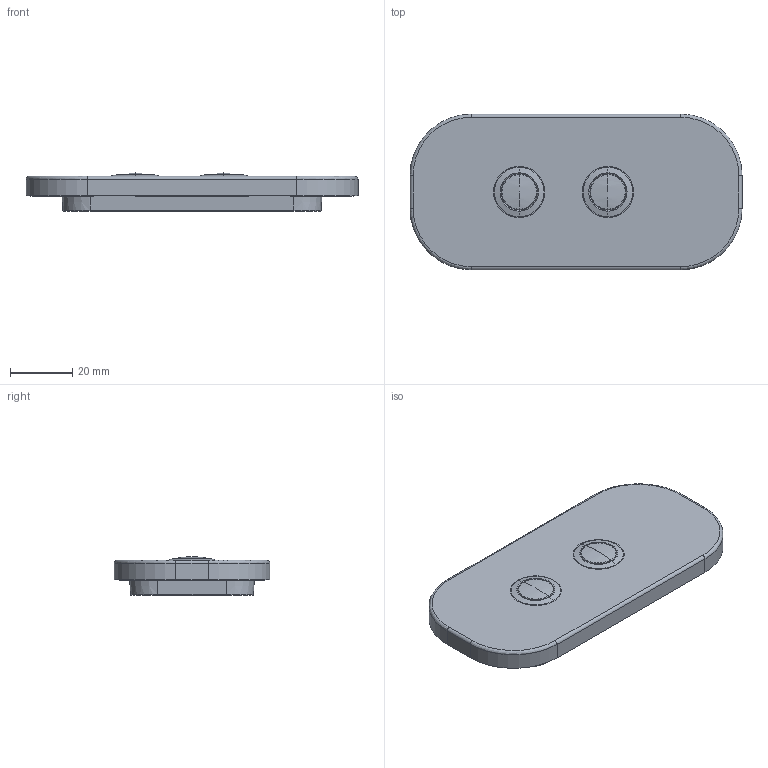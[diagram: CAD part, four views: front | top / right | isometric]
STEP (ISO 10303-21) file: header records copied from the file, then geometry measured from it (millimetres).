
FILE_DESCRIPTION((''),'2;1');
FILE_NAME('1055W4017','2025-09-22T11:27:00',('jak'),(''),'CREO PARAMETRIC BY PTC INC, 2022024','CREO PARAMETRIC BY PTC INC, 2022024','');
FILE_SCHEMA(('AUTOMOTIVE_DESIGN { 1 0 10303 214 1 1 1 1 }'));
Length unit declared in the file: millimetre
Products named in the file (1): 1055W4017
Bounding box: 106.7 x 50 x 12.35 mm (x, y, z)
Volume: 43818.9 mm3; surface area: 17734.9 mm2
Topology: 1 solids, 1 shells, 333 faces, 888 edges, 556 vertices
Faces by surface type: plane 135, cylinder 78, cone 60, bspline 24, torus 20, sphere 16
Entity records: 11333 total; most frequent: CARTESIAN_POINT 3131, ORIENTED_EDGE 1748, DIRECTION 1646, EDGE_CURVE 874, AXIS2_PLACEMENT_3D 611, VERTEX_POINT 556, VECTOR 424, LINE 424
